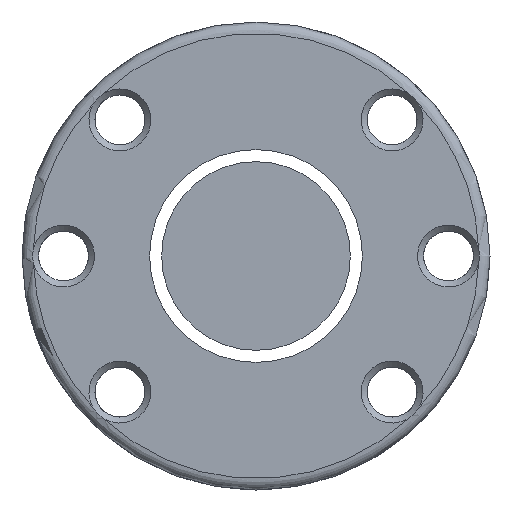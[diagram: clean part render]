
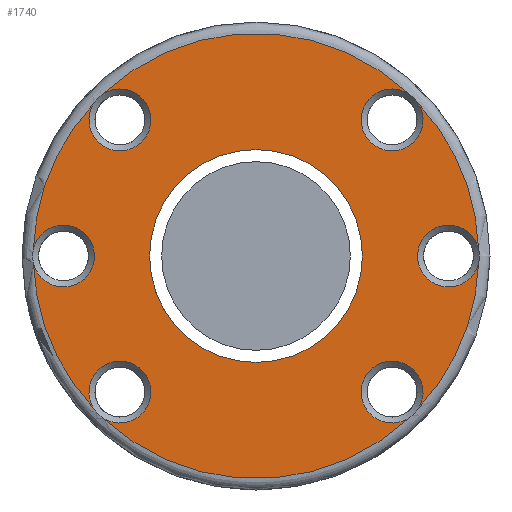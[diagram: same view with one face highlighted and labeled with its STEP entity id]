
A CAD part, left-side view. The second image highlights one B-rep face of the part: STEP entity #1740.
In plain terms, the highlighted planar face has unit normal (-1, 0, 0).
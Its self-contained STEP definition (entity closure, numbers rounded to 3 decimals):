
#66 = DIRECTION ( 'NONE',  ( 0., -1., 0. ) ) ;
#68 = DIRECTION ( 'NONE',  ( -1., 0., 0. ) ) ;
#103 = EDGE_CURVE ( 'NONE', #2386, #2386, #433, .T. ) ;
#136 = ORIENTED_EDGE ( 'NONE', *, *, #1945, .T. ) ;
#142 = ORIENTED_EDGE ( 'NONE', *, *, #1450, .T. ) ;
#166 = VERTEX_POINT ( 'NONE', #225 ) ;
#184 = CARTESIAN_POINT ( 'NONE',  ( -80., -25.5, 0. ) ) ;
#192 = VERTEX_POINT ( 'NONE', #2401 ) ;
#225 = CARTESIAN_POINT ( 'NONE',  ( -80., 29.484, 0.968 ) ) ;
#246 = AXIS2_PLACEMENT_3D ( 'NONE', #2562, #782, #561 ) ;
#247 = CIRCLE ( 'NONE', #1929, 4.1 ) ;
#289 = CIRCLE ( 'NONE', #2481, 4.1 ) ;
#292 = CARTESIAN_POINT ( 'NONE',  ( -80., -29.484, 0.968 ) ) ;
#310 = CARTESIAN_POINT ( 'NONE',  ( -80., -18.031, 18.031 ) ) ;
#321 = VERTEX_POINT ( 'NONE', #2390 ) ;
#340 = AXIS2_PLACEMENT_3D ( 'NONE', #184, #856, #1544 ) ;
#391 = AXIS2_PLACEMENT_3D ( 'NONE', #1281, #614, #1964 ) ;
#433 = CIRCLE ( 'NONE', #1036, 14.1 ) ;
#523 = CIRCLE ( 'NONE', #674, 29.5 ) ;
#552 = VERTEX_POINT ( 'NONE', #2795 ) ;
#558 = DIRECTION ( 'NONE',  ( 0., -1., 0. ) ) ;
#561 = DIRECTION ( 'NONE',  ( 0., -1., 0. ) ) ;
#576 = DIRECTION ( 'NONE',  ( 1., 0., 0. ) ) ;
#577 = DIRECTION ( 'NONE',  ( 0., -1., 0. ) ) ;
#578 = EDGE_CURVE ( 'NONE', #321, #2757, #2055, .T. ) ;
#580 = AXIS2_PLACEMENT_3D ( 'NONE', #1068, #2797, #577 ) ;
#589 = VERTEX_POINT ( 'NONE', #292 ) ;
#614 = DIRECTION ( 'NONE',  ( -1., 0., 0. ) ) ;
#619 = AXIS2_PLACEMENT_3D ( 'NONE', #1937, #1455, #1690 ) ;
#626 = AXIS2_PLACEMENT_3D ( 'NONE', #2072, #68, #766 ) ;
#627 = FACE_BOUND ( 'NONE', #1472, .T. ) ;
#644 = VERTEX_POINT ( 'NONE', #794 ) ;
#648 = CARTESIAN_POINT ( 'NONE',  ( -80., -21.533, 20.164 ) ) ;
#652 = ORIENTED_EDGE ( 'NONE', *, *, #910, .T. ) ;
#674 = AXIS2_PLACEMENT_3D ( 'NONE', #872, #1952, #1497 ) ;
#717 = CIRCLE ( 'NONE', #2676, 29.5 ) ;
#750 = DIRECTION ( 'NONE',  ( -1., 0., 0. ) ) ;
#766 = DIRECTION ( 'NONE',  ( 0., -1., 0. ) ) ;
#782 = DIRECTION ( 'NONE',  ( -1., 0., 0. ) ) ;
#794 = CARTESIAN_POINT ( 'NONE',  ( -80., -20.164, 21.533 ) ) ;
#800 = DIRECTION ( 'NONE',  ( 0., -1., 0. ) ) ;
#828 = VERTEX_POINT ( 'NONE', #2136 ) ;
#839 = CARTESIAN_POINT ( 'NONE',  ( -80., -21.533, -20.164 ) ) ;
#856 = DIRECTION ( 'NONE',  ( 1., 0., 0. ) ) ;
#865 = VERTEX_POINT ( 'NONE', #1259 ) ;
#872 = CARTESIAN_POINT ( 'NONE',  ( -80., 0., 0. ) ) ;
#876 = EDGE_CURVE ( 'NONE', #552, #321, #2909, .T. ) ;
#910 = EDGE_CURVE ( 'NONE', #865, #2633, #1877, .T. ) ;
#1006 = ORIENTED_EDGE ( 'NONE', *, *, #2900, .T. ) ;
#1036 = AXIS2_PLACEMENT_3D ( 'NONE', #2410, #1992, #1336 ) ;
#1068 = CARTESIAN_POINT ( 'NONE',  ( -80., 0., 0. ) ) ;
#1074 = PLANE ( 'NONE',  #391 ) ;
#1087 = CIRCLE ( 'NONE', #626, 29.5 ) ;
#1089 = FACE_OUTER_BOUND ( 'NONE', #2884, .T. ) ;
#1259 = CARTESIAN_POINT ( 'NONE',  ( -80., 20.164, 21.533 ) ) ;
#1281 = CARTESIAN_POINT ( 'NONE',  ( -80., 31., 0. ) ) ;
#1302 = EDGE_CURVE ( 'NONE', #828, #552, #289, .T. ) ;
#1336 = DIRECTION ( 'NONE',  ( 0., 1., 0. ) ) ;
#1450 = EDGE_CURVE ( 'NONE', #2863, #644, #2717, .T. ) ;
#1455 = DIRECTION ( 'NONE',  ( 1., 0., 0. ) ) ;
#1472 = EDGE_LOOP ( 'NONE', ( #2609 ) ) ;
#1475 = ORIENTED_EDGE ( 'NONE', *, *, #876, .T. ) ;
#1497 = DIRECTION ( 'NONE',  ( 0., -1., 0. ) ) ;
#1533 = CARTESIAN_POINT ( 'NONE',  ( -80., 25.5, 0. ) ) ;
#1544 = DIRECTION ( 'NONE',  ( 0., -1., 0. ) ) ;
#1637 = CARTESIAN_POINT ( 'NONE',  ( -80., -18.031, -18.031 ) ) ;
#1639 = DIRECTION ( 'NONE',  ( 0., -1., 0. ) ) ;
#1651 = CIRCLE ( 'NONE', #2629, 29.5 ) ;
#1678 = CARTESIAN_POINT ( 'NONE',  ( -80., 0., 0. ) ) ;
#1690 = DIRECTION ( 'NONE',  ( 0., -1., 0. ) ) ;
#1740 = ADVANCED_FACE ( 'NONE', ( #1089, #627 ), #1074, .T. ) ;
#1751 = CARTESIAN_POINT ( 'NONE',  ( -80., -29.484, -0.968 ) ) ;
#1784 = EDGE_CURVE ( 'NONE', #166, #192, #247, .T. ) ;
#1785 = AXIS2_PLACEMENT_3D ( 'NONE', #310, #576, #558 ) ;
#1847 = DIRECTION ( 'NONE',  ( -1., 0., 0. ) ) ;
#1865 = VERTEX_POINT ( 'NONE', #1751 ) ;
#1877 = CIRCLE ( 'NONE', #619, 4.1 ) ;
#1917 = DIRECTION ( 'NONE',  ( 1., 0., 0. ) ) ;
#1920 = ORIENTED_EDGE ( 'NONE', *, *, #1302, .T. ) ;
#1929 = AXIS2_PLACEMENT_3D ( 'NONE', #1533, #2626, #2848 ) ;
#1937 = CARTESIAN_POINT ( 'NONE',  ( -80., 18.031, 18.031 ) ) ;
#1945 = EDGE_CURVE ( 'NONE', #589, #2863, #523, .T. ) ;
#1952 = DIRECTION ( 'NONE',  ( -1., 0., 0. ) ) ;
#1964 = DIRECTION ( 'NONE',  ( 0., -1., 0. ) ) ;
#1992 = DIRECTION ( 'NONE',  ( 1., 0., 0. ) ) ;
#2015 = ORIENTED_EDGE ( 'NONE', *, *, #1784, .T. ) ;
#2017 = DIRECTION ( 'NONE',  ( 1., 0., 0. ) ) ;
#2030 = CARTESIAN_POINT ( 'NONE',  ( -80., 18.031, -18.031 ) ) ;
#2054 = CIRCLE ( 'NONE', #340, 4.1 ) ;
#2055 = CIRCLE ( 'NONE', #2576, 4.1 ) ;
#2061 = CIRCLE ( 'NONE', #580, 29.5 ) ;
#2067 = EDGE_CURVE ( 'NONE', #192, #828, #717, .T. ) ;
#2072 = CARTESIAN_POINT ( 'NONE',  ( -80., 0., 0. ) ) ;
#2096 = ORIENTED_EDGE ( 'NONE', *, *, #578, .T. ) ;
#2136 = CARTESIAN_POINT ( 'NONE',  ( -80., 21.533, -20.164 ) ) ;
#2292 = ORIENTED_EDGE ( 'NONE', *, *, #2421, .T. ) ;
#2386 = VERTEX_POINT ( 'NONE', #2639 ) ;
#2390 = CARTESIAN_POINT ( 'NONE',  ( -80., -20.164, -21.533 ) ) ;
#2401 = CARTESIAN_POINT ( 'NONE',  ( -80., 29.484, -0.968 ) ) ;
#2410 = CARTESIAN_POINT ( 'NONE',  ( -80., 0., 0. ) ) ;
#2421 = EDGE_CURVE ( 'NONE', #644, #865, #1087, .T. ) ;
#2481 = AXIS2_PLACEMENT_3D ( 'NONE', #2030, #2017, #2722 ) ;
#2508 = EDGE_CURVE ( 'NONE', #2633, #166, #1651, .T. ) ;
#2543 = CARTESIAN_POINT ( 'NONE',  ( -80., 21.533, 20.164 ) ) ;
#2562 = CARTESIAN_POINT ( 'NONE',  ( -80., 0., 0. ) ) ;
#2576 = AXIS2_PLACEMENT_3D ( 'NONE', #1637, #1917, #66 ) ;
#2609 = ORIENTED_EDGE ( 'NONE', *, *, #103, .T. ) ;
#2626 = DIRECTION ( 'NONE',  ( 1., 0., 0. ) ) ;
#2629 = AXIS2_PLACEMENT_3D ( 'NONE', #2750, #750, #1639 ) ;
#2633 = VERTEX_POINT ( 'NONE', #2543 ) ;
#2639 = CARTESIAN_POINT ( 'NONE',  ( -80., 14.1, 0. ) ) ;
#2649 = ORIENTED_EDGE ( 'NONE', *, *, #2508, .T. ) ;
#2676 = AXIS2_PLACEMENT_3D ( 'NONE', #1678, #1847, #800 ) ;
#2701 = EDGE_CURVE ( 'NONE', #2757, #1865, #2061, .T. ) ;
#2717 = CIRCLE ( 'NONE', #1785, 4.1 ) ;
#2722 = DIRECTION ( 'NONE',  ( 0., -1., 0. ) ) ;
#2750 = CARTESIAN_POINT ( 'NONE',  ( -80., 0., 0. ) ) ;
#2757 = VERTEX_POINT ( 'NONE', #839 ) ;
#2786 = ORIENTED_EDGE ( 'NONE', *, *, #2067, .T. ) ;
#2795 = CARTESIAN_POINT ( 'NONE',  ( -80., 20.164, -21.533 ) ) ;
#2797 = DIRECTION ( 'NONE',  ( -1., 0., 0. ) ) ;
#2813 = ORIENTED_EDGE ( 'NONE', *, *, #2701, .T. ) ;
#2848 = DIRECTION ( 'NONE',  ( 0., -1., 0. ) ) ;
#2863 = VERTEX_POINT ( 'NONE', #648 ) ;
#2884 = EDGE_LOOP ( 'NONE', ( #1006, #136, #142, #2292, #652, #2649, #2015, #2786, #1920, #1475, #2096, #2813 ) ) ;
#2900 = EDGE_CURVE ( 'NONE', #1865, #589, #2054, .T. ) ;
#2909 = CIRCLE ( 'NONE', #246, 29.5 ) ;
